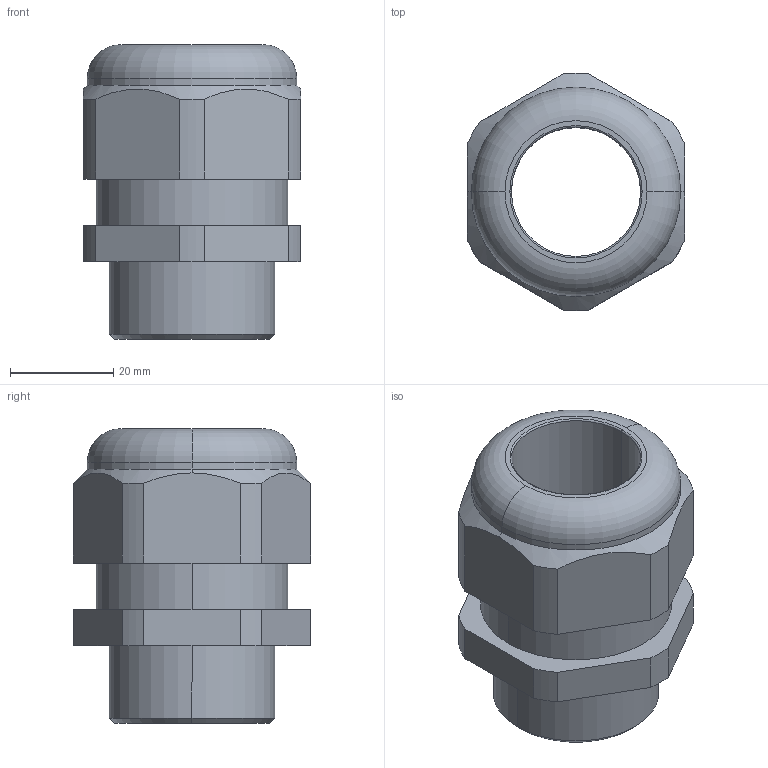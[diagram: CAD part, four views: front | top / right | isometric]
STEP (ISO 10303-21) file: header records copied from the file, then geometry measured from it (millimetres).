
FILE_DESCRIPTION (( 'STEP AP203' ), '1' );
FILE_NAME ('50029M32PA.STEP', '2005-09-19T13:07:49', ( ' ' ), ( '' ), 'SwSTEP 2.0', 'SolidWorks 2005143', '' );
FILE_SCHEMA (( 'CONFIG_CONTROL_DESIGN' ));
Length unit declared in the file: millimetre
Products named in the file (1): 50029M32PA
Bounding box: 42 x 45.97 x 57 mm (x, y, z)
Volume: 40521.5 mm3; surface area: 13903.4 mm2
Topology: 1 solids, 1 shells, 82 faces, 214 edges, 140 vertices
Faces by surface type: plane 54, cylinder 20, cone 4, torus 4
Entity records: 2665 total; most frequent: CARTESIAN_POINT 533, ORIENTED_EDGE 428, DIRECTION 422, EDGE_CURVE 214, VECTOR 156, LINE 156, VERTEX_POINT 140, AXIS2_PLACEMENT_3D 133
